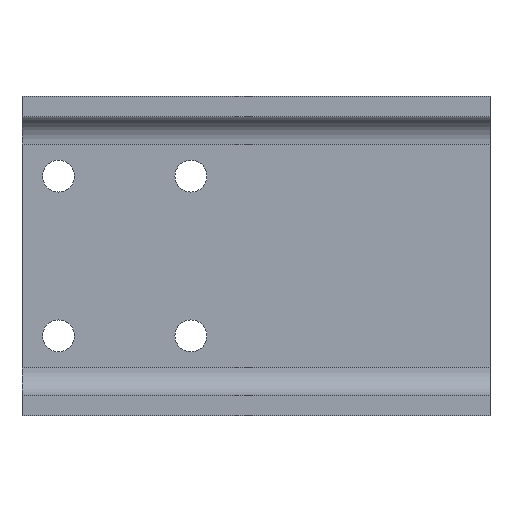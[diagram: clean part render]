
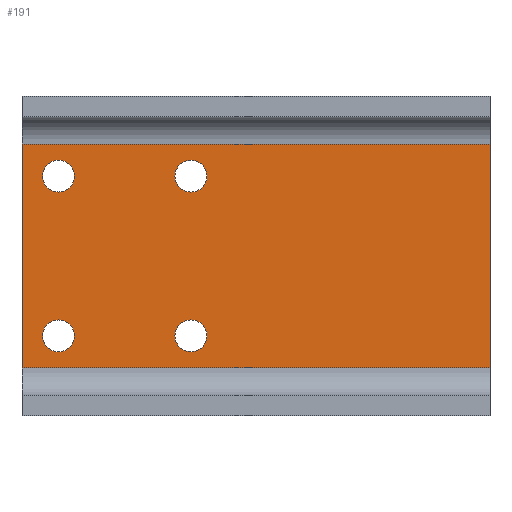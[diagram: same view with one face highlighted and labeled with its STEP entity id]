
A CAD part, left-side view. The second image highlights one B-rep face of the part: STEP entity #191.
In plain terms, the highlighted planar face has unit normal (-1, 0, 0).
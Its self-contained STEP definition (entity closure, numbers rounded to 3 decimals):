
#3 = DIRECTION ( 'NONE',  ( 0., 0., 1. ) ) ;
#7 = DIRECTION ( 'NONE',  ( 0., 0., 1. ) ) ;
#9 = CARTESIAN_POINT ( 'NONE',  ( -55., -160., 2171. ) ) ;
#25 = CARTESIAN_POINT ( 'NONE',  ( -55., -29., 2262. ) ) ;
#61 = DIRECTION ( 'NONE',  ( 0., 0., 1. ) ) ;
#70 = EDGE_CURVE ( 'NONE', #1161, #2398, #3080, .T. ) ;
#77 = VERTEX_POINT ( 'NONE', #828 ) ;
#132 = DIRECTION ( 'NONE',  ( 0., 0., 1. ) ) ;
#143 = EDGE_CURVE ( 'NONE', #2305, #330, #1735, .T. ) ;
#146 = DIRECTION ( 'NONE',  ( 0., 0., 1. ) ) ;
#148 = CARTESIAN_POINT ( 'NONE',  ( -55., 29., 2255. ) ) ;
#150 = VERTEX_POINT ( 'NONE', #1849 ) ;
#191 = ADVANCED_FACE ( 'NONE', ( #2217, #505, #2947, #1702, #239 ), #2495, .F. ) ;
#193 = VERTEX_POINT ( 'NONE', #25 ) ;
#234 = AXIS2_PLACEMENT_3D ( 'NONE', #765, #975, #3 ) ;
#236 = DIRECTION ( 'NONE',  ( 0., 0., -1. ) ) ;
#239 = FACE_OUTER_BOUND ( 'NONE', #3003, .T. ) ;
#295 = DIRECTION ( 'NONE',  ( -1., 0., 0. ) ) ;
#330 = VERTEX_POINT ( 'NONE', #870 ) ;
#332 = DIRECTION ( 'NONE',  ( 0., 0., 1. ) ) ;
#357 = CIRCLE ( 'NONE', #612, 7. ) ;
#394 = CIRCLE ( 'NONE', #2030, 7. ) ;
#396 = DIRECTION ( 'NONE',  ( -1., 0., 0. ) ) ;
#397 = ORIENTED_EDGE ( 'NONE', *, *, #398, .T. ) ;
#398 = EDGE_CURVE ( 'NONE', #2249, #2617, #2313, .T. ) ;
#406 = EDGE_CURVE ( 'NONE', #77, #479, #1842, .T. ) ;
#450 = DIRECTION ( 'NONE',  ( -1., 0., 0. ) ) ;
#479 = VERTEX_POINT ( 'NONE', #1176 ) ;
#505 = FACE_BOUND ( 'NONE', #1020, .T. ) ;
#542 = EDGE_CURVE ( 'NONE', #3180, #937, #2160, .T. ) ;
#563 = ORIENTED_EDGE ( 'NONE', *, *, #1297, .F. ) ;
#603 = DIRECTION ( 'NONE',  ( 0., 1., 0. ) ) ;
#612 = AXIS2_PLACEMENT_3D ( 'NONE', #2904, #2433, #1694 ) ;
#735 = DIRECTION ( 'NONE',  ( 1., 0., 0. ) ) ;
#765 = CARTESIAN_POINT ( 'NONE',  ( -55., 29., 2185. ) ) ;
#811 = EDGE_LOOP ( 'NONE', ( #563, #2642 ) ) ;
#828 = CARTESIAN_POINT ( 'NONE',  ( -55., 29., 2178. ) ) ;
#860 = ORIENTED_EDGE ( 'NONE', *, *, #1626, .F. ) ;
#870 = CARTESIAN_POINT ( 'NONE',  ( -55., -29., 2178. ) ) ;
#883 = EDGE_CURVE ( 'NONE', #2398, #1161, #2154, .T. ) ;
#886 = VECTOR ( 'NONE', #1915, 1000. ) ;
#903 = CARTESIAN_POINT ( 'NONE',  ( -55., -29., 2192. ) ) ;
#910 = CARTESIAN_POINT ( 'NONE',  ( -55., 45., 2171. ) ) ;
#937 = VERTEX_POINT ( 'NONE', #910 ) ;
#968 = AXIS2_PLACEMENT_3D ( 'NONE', #9, #735, #1037 ) ;
#975 = DIRECTION ( 'NONE',  ( -1., 0., 0. ) ) ;
#1020 = EDGE_LOOP ( 'NONE', ( #2369, #2950 ) ) ;
#1037 = DIRECTION ( 'NONE',  ( 0., 0., -1. ) ) ;
#1080 = AXIS2_PLACEMENT_3D ( 'NONE', #3076, #2834, #132 ) ;
#1116 = DIRECTION ( 'NONE',  ( -1., 0., 0. ) ) ;
#1161 = VERTEX_POINT ( 'NONE', #1350 ) ;
#1176 = CARTESIAN_POINT ( 'NONE',  ( -55., 29., 2192. ) ) ;
#1297 = EDGE_CURVE ( 'NONE', #193, #150, #2432, .T. ) ;
#1302 = CARTESIAN_POINT ( 'NONE',  ( -55., -160., 2171. ) ) ;
#1350 = CARTESIAN_POINT ( 'NONE',  ( -55., 29., 2262. ) ) ;
#1425 = EDGE_CURVE ( 'NONE', #150, #193, #394, .T. ) ;
#1477 = VECTOR ( 'NONE', #603, 1000. ) ;
#1626 = EDGE_CURVE ( 'NONE', #479, #77, #2907, .T. ) ;
#1694 = DIRECTION ( 'NONE',  ( 0., 0., 1. ) ) ;
#1700 = DIRECTION ( 'NONE',  ( -1., 0., 0. ) ) ;
#1702 = FACE_BOUND ( 'NONE', #2053, .T. ) ;
#1733 = CARTESIAN_POINT ( 'NONE',  ( -55., -29., 2255. ) ) ;
#1735 = CIRCLE ( 'NONE', #1737, 7. ) ;
#1737 = AXIS2_PLACEMENT_3D ( 'NONE', #2334, #1116, #2095 ) ;
#1776 = ORIENTED_EDGE ( 'NONE', *, *, #70, .F. ) ;
#1842 = CIRCLE ( 'NONE', #1080, 7. ) ;
#1849 = CARTESIAN_POINT ( 'NONE',  ( -55., -29., 2248. ) ) ;
#1915 = DIRECTION ( 'NONE',  ( 0., 0., -1. ) ) ;
#1974 = EDGE_CURVE ( 'NONE', #2617, #937, #2736, .T. ) ;
#1986 = CARTESIAN_POINT ( 'NONE',  ( -55., 45., 2171. ) ) ;
#2030 = AXIS2_PLACEMENT_3D ( 'NONE', #2862, #450, #146 ) ;
#2045 = CARTESIAN_POINT ( 'NONE',  ( -55., 45., 2269. ) ) ;
#2053 = EDGE_LOOP ( 'NONE', ( #1776, #2096 ) ) ;
#2095 = DIRECTION ( 'NONE',  ( 0., 0., 1. ) ) ;
#2096 = ORIENTED_EDGE ( 'NONE', *, *, #883, .F. ) ;
#2097 = CARTESIAN_POINT ( 'NONE',  ( -55., -160., 2269. ) ) ;
#2154 = CIRCLE ( 'NONE', #2879, 7. ) ;
#2160 = LINE ( 'NONE', #2860, #2721 ) ;
#2174 = CARTESIAN_POINT ( 'NONE',  ( -55., 29., 2248. ) ) ;
#2192 = LINE ( 'NONE', #2734, #886 ) ;
#2217 = FACE_BOUND ( 'NONE', #811, .T. ) ;
#2249 = VERTEX_POINT ( 'NONE', #2097 ) ;
#2274 = ORIENTED_EDGE ( 'NONE', *, *, #2818, .F. ) ;
#2282 = CARTESIAN_POINT ( 'NONE',  ( -55., 29., 2255. ) ) ;
#2305 = VERTEX_POINT ( 'NONE', #903 ) ;
#2313 = LINE ( 'NONE', #3062, #1477 ) ;
#2332 = AXIS2_PLACEMENT_3D ( 'NONE', #1733, #1700, #7 ) ;
#2334 = CARTESIAN_POINT ( 'NONE',  ( -55., -29., 2185. ) ) ;
#2369 = ORIENTED_EDGE ( 'NONE', *, *, #143, .F. ) ;
#2398 = VERTEX_POINT ( 'NONE', #2174 ) ;
#2430 = EDGE_CURVE ( 'NONE', #330, #2305, #357, .T. ) ;
#2432 = CIRCLE ( 'NONE', #2332, 7. ) ;
#2433 = DIRECTION ( 'NONE',  ( -1., 0., 0. ) ) ;
#2490 = ORIENTED_EDGE ( 'NONE', *, *, #542, .F. ) ;
#2495 = PLANE ( 'NONE',  #968 ) ;
#2617 = VERTEX_POINT ( 'NONE', #2045 ) ;
#2633 = DIRECTION ( 'NONE',  ( 0., 1., 0. ) ) ;
#2642 = ORIENTED_EDGE ( 'NONE', *, *, #1425, .F. ) ;
#2718 = VECTOR ( 'NONE', #236, 1000. ) ;
#2721 = VECTOR ( 'NONE', #2633, 1000. ) ;
#2734 = CARTESIAN_POINT ( 'NONE',  ( -55., -160., 2171. ) ) ;
#2736 = LINE ( 'NONE', #1986, #2718 ) ;
#2818 = EDGE_CURVE ( 'NONE', #2249, #3180, #2192, .T. ) ;
#2834 = DIRECTION ( 'NONE',  ( -1., 0., 0. ) ) ;
#2860 = CARTESIAN_POINT ( 'NONE',  ( -55., -160., 2171. ) ) ;
#2862 = CARTESIAN_POINT ( 'NONE',  ( -55., -29., 2255. ) ) ;
#2873 = ORIENTED_EDGE ( 'NONE', *, *, #1974, .T. ) ;
#2879 = AXIS2_PLACEMENT_3D ( 'NONE', #148, #295, #61 ) ;
#2902 = EDGE_LOOP ( 'NONE', ( #860, #3112 ) ) ;
#2904 = CARTESIAN_POINT ( 'NONE',  ( -55., -29., 2185. ) ) ;
#2907 = CIRCLE ( 'NONE', #234, 7. ) ;
#2947 = FACE_BOUND ( 'NONE', #2902, .T. ) ;
#2950 = ORIENTED_EDGE ( 'NONE', *, *, #2430, .F. ) ;
#2978 = AXIS2_PLACEMENT_3D ( 'NONE', #2282, #396, #332 ) ;
#3003 = EDGE_LOOP ( 'NONE', ( #2873, #2490, #2274, #397 ) ) ;
#3062 = CARTESIAN_POINT ( 'NONE',  ( -55., -160., 2269. ) ) ;
#3076 = CARTESIAN_POINT ( 'NONE',  ( -55., 29., 2185. ) ) ;
#3080 = CIRCLE ( 'NONE', #2978, 7. ) ;
#3112 = ORIENTED_EDGE ( 'NONE', *, *, #406, .F. ) ;
#3180 = VERTEX_POINT ( 'NONE', #1302 ) ;
